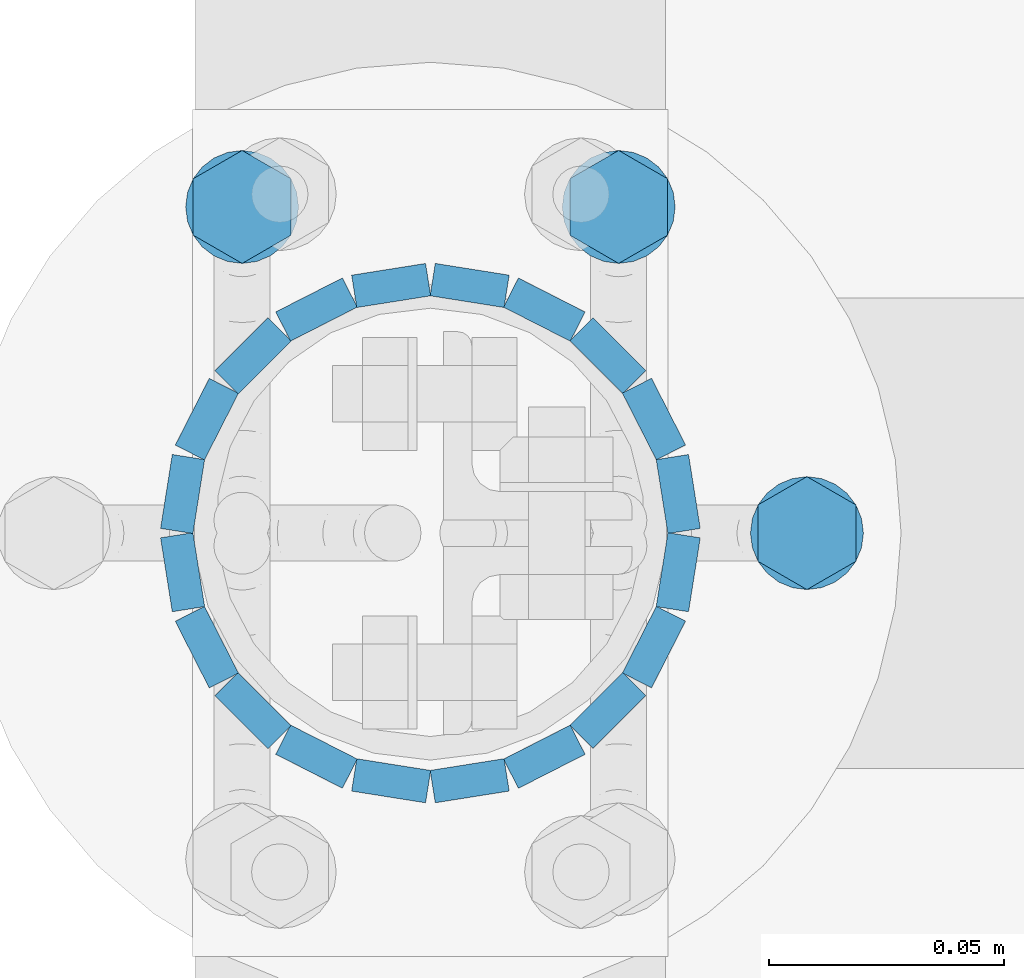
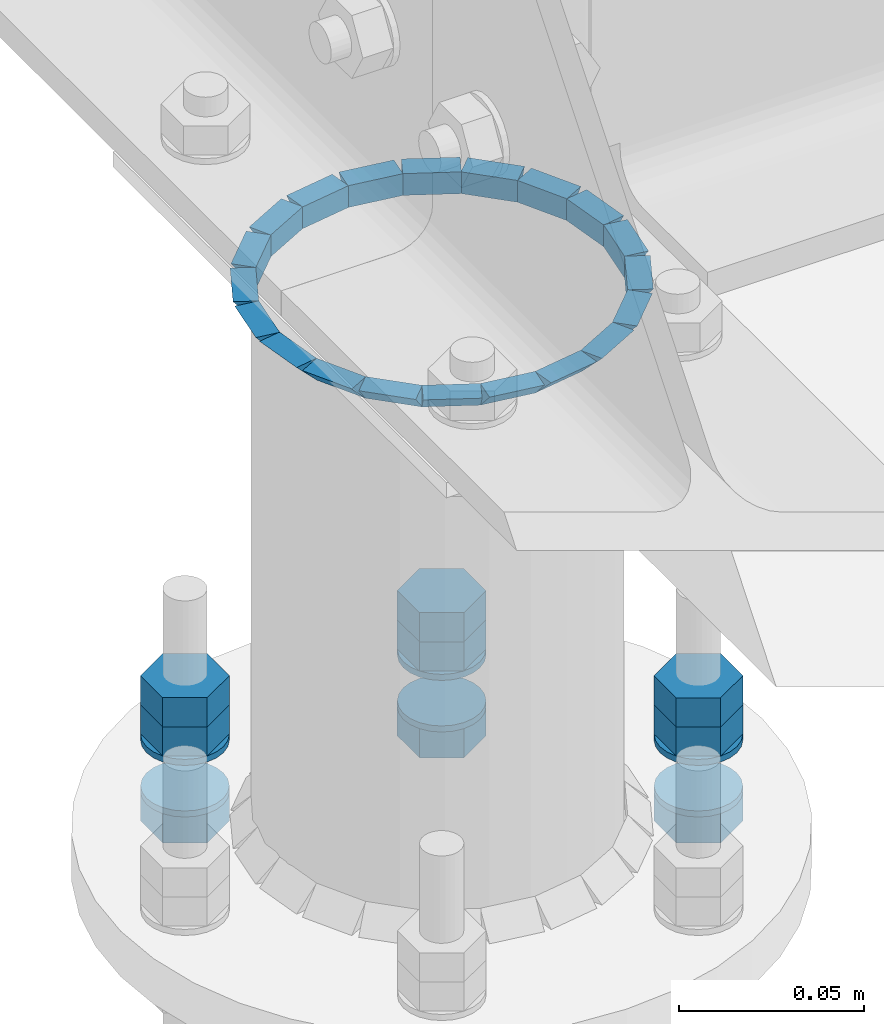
# One storey, part 49 of 84: 40 fasteners, 15 mechanical fasteners.
"""IFC4 building model written with IfcOpenShell, lengths in metres."""

from ifc_helpers import new_model, si_unit, frame, origin_with_axes, place, context, project, spatial, polyline, outline, extrude, type_object, element, save


model = new_model("IFC4")

# Units and contexts
model_context = context("Model", 3, precision=1e-05, world=origin_with_axes())
ifc_project = project(units=[si_unit("LENGTHUNIT", "METRE"), si_unit("AREAUNIT", "SQUARE_METRE"), si_unit("VOLUMEUNIT", "CUBIC_METRE"), si_unit("MASSUNIT", "GRAM", prefix="KILO"), si_unit("TIMEUNIT", "SECOND"), si_unit("PLANEANGLEUNIT", "RADIAN"), si_unit("SOLIDANGLEUNIT", "STERADIAN"), si_unit("THERMODYNAMICTEMPERATUREUNIT", "DEGREE_CELSIUS")], contexts=[model_context])

# Site, building, storey
placement_1 = place(None, origin_with_axes())
site = spatial("IfcSite", under=ifc_project, at=placement_1, Name="Italia", CompositionType="ELEMENT")
building = spatial("IfcBuilding", under=site, at=placement_1, Name="Tettoia", CompositionType="ELEMENT")
storey_placement = place(None, frame((0.0, 0.0, 4.199999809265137), z_axis=(0.0, 0.0, 1.0), x_axis=(1.0, 0.0, 0.0)))
storey = spatial("IfcBuildingStorey", under=building, at=storey_placement, Name="Storey 1", CompositionType="ELEMENT", Elevation=4.199999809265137)

# Mechanical fasteners
mechanical_fastener_type_1 = type_object("IfcMechanicalFastenerType", Name="Collegamento -011_0111", PredefinedType="BOLT")
placement_2 = place(placement_1, origin_with_axes())
mechanical_fastener_1_placement = place(placement_2, origin_with_axes())
element("IfcMechanicalFastener", 1, at=mechanical_fastener_1_placement, inside=storey, type_object=mechanical_fastener_type_1, Name="Collegamento -011_0111", NominalDiameter=0.0119991, context=model_context, shape_type="SweptSolid", body=[
    extrude(outline(polyline([(0.0, 0.0), (-0.0119991, 0.0), (-0.0179996, 0.0103923), (-0.0119991, 0.0207846), (0.0, 0.0207846), (0.00600052, 0.0103923), (0.0, 0.0)])), frame((0.190392, 13.956, 4.017), z_axis=(0.0, 0.0, 1.0), x_axis=(0.0, 1.0, 0.0)), (0.0, 0.0, 1.0), 0.00959969),
])
mechanical_fastener_type_2 = type_object("IfcMechanicalFastenerType", Name="Collegamento -011_0111", PredefinedType="BOLT")
mechanical_fastener_2_placement = place(placement_2, origin_with_axes())
element("IfcMechanicalFastener", 2, at=mechanical_fastener_2_placement, inside=storey, type_object=mechanical_fastener_type_2, Name="Collegamento -011_0111", NominalDiameter=0.0119991, context=model_context, shape_type="SweptSolid", body=[
    extrude(outline(polyline([(0.0, 0.0), (-0.0119991, 0.0), (-0.0179996, 0.0103923), (-0.0119991, 0.0207846), (0.0, 0.0207846), (0.00600052, 0.0103923), (0.0, 0.0)])), frame((0.190392, 13.956, 4.0266), z_axis=(0.0, 0.0, 1.0), x_axis=(0.0, 1.0, 0.0)), (0.0, 0.0, 1.0), 0.00960016),
])
mechanical_fastener_type_3 = type_object("IfcMechanicalFastenerType", Name="Collegamento -011_0111", PredefinedType="BOLT")
mechanical_fastener_3_placement = place(placement_2, origin_with_axes())
element("IfcMechanicalFastener", 3, at=mechanical_fastener_3_placement, inside=storey, type_object=mechanical_fastener_type_3, Name="Collegamento -011_0111", NominalDiameter=0.0119991, context=model_context, shape_type="SweptSolid", body=[
    extrude(outline(polyline([(0.0, 0.0), (-0.0119991, 0.0), (-0.0179996, 0.0103923), (-0.0119991, 0.0207846), (0.0, 0.0207846), (0.00600052, 0.0103923), (0.0, 0.0)])), frame((0.190392, 13.956, 3.9884), z_axis=(0.0, 0.0, 1.0), x_axis=(0.0, 1.0, 0.0)), (0.0, 0.0, 1.0), 0.00959992),
])
mechanical_fastener_type_4 = type_object("IfcMechanicalFastenerType", Name="Collegamento -011_0111", PredefinedType="BOLT")
mechanical_fastener_4_placement = place(placement_2, origin_with_axes())
element("IfcMechanicalFastener", 4, at=mechanical_fastener_4_placement, inside=storey, type_object=mechanical_fastener_type_4, Name="Collegamento -011_0111", NominalDiameter=0.024, context=model_context, shape_type="SweptSolid", body=[
    extrude(outline(polyline([(0.0, 0.0), (-0.000409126, -0.00310583), (-0.00160789, -0.006), (-0.00351524, -0.00848529), (-0.00600052, -0.0103923), (-0.00889397, -0.0115911), (-0.0120001, -0.012), (-0.0151062, -0.0115911), (-0.0179996, -0.0103923), (-0.0204849, -0.00848529), (-0.0223923, -0.006), (-0.023591, -0.00310583), (-0.0240002, 0.0), (-0.023591, 0.00310583), (-0.0223923, 0.006), (-0.0204849, 0.00848529), (-0.0179996, 0.0103923), (-0.0151062, 0.0115911), (-0.0120001, 0.012), (-0.00889397, 0.0115911), (-0.00600052, 0.0103923), (-0.00351524, 0.00848527), (-0.00160789, 0.006), (-0.000409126, 0.00310582), (0.0, 0.0)])), frame((0.18, 13.962, 4.015), z_axis=(0.0, 0.0, 1.0), x_axis=(0.0, 1.0, 0.0)), (0.0, 0.0, 1.0), 0.00200033),
])
mechanical_fastener_type_5 = type_object("IfcMechanicalFastenerType", Name="Collegamento -011_0111", PredefinedType="BOLT")
mechanical_fastener_5_placement = place(placement_2, origin_with_axes())
element("IfcMechanicalFastener", 5, at=mechanical_fastener_5_placement, inside=storey, type_object=mechanical_fastener_type_5, Name="Collegamento -011_0111", NominalDiameter=0.024, context=model_context, shape_type="SweptSolid", body=[
    extrude(outline(polyline([(0.0, 0.0), (-0.000409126, -0.00310583), (-0.00160789, -0.006), (-0.00351524, -0.00848529), (-0.00600052, -0.0103923), (-0.00889397, -0.0115911), (-0.0120001, -0.012), (-0.0151062, -0.0115911), (-0.0179996, -0.0103923), (-0.0204849, -0.00848529), (-0.0223923, -0.006), (-0.023591, -0.00310583), (-0.0240002, 0.0), (-0.023591, 0.00310583), (-0.0223923, 0.006), (-0.0204849, 0.00848529), (-0.0179996, 0.0103923), (-0.0151062, 0.0115911), (-0.0120001, 0.012), (-0.00889397, 0.0115911), (-0.00600052, 0.0103923), (-0.00351524, 0.00848527), (-0.00160789, 0.006), (-0.000409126, 0.00310582), (0.0, 0.0)])), frame((0.18, 13.962, 3.998), z_axis=(0.0, 0.0, 1.0), x_axis=(0.0, 1.0, 0.0)), (0.0, 0.0, 1.0), 0.00200009),
])
mechanical_fastener_type_6 = type_object("IfcMechanicalFastenerType", Name="Collegamento -011_0111", PredefinedType="BOLT")
mechanical_fastener_6_placement = place(placement_2, origin_with_axes())
element("IfcMechanicalFastener", 6, at=mechanical_fastener_6_placement, inside=storey, type_object=mechanical_fastener_type_6, Name="Collegamento -011_0111", NominalDiameter=0.0119998, context=model_context, shape_type="SweptSolid", body=[
    extrude(outline(polyline([(0.0, 0.0), (-0.0120001, 0.0), (-0.0179996, 0.0103923), (-0.0120001, 0.0207846), (0.0, 0.0207846), (0.00599957, 0.0103923), (0.0, 0.0)])), frame((0.150392, 14.0253, 4.017), z_axis=(0.0, 0.0, 1.0), x_axis=(0.0, 1.0, 0.0)), (0.0, 0.0, 1.0), 0.00959969),
])
mechanical_fastener_type_7 = type_object("IfcMechanicalFastenerType", Name="Collegamento -011_0111", PredefinedType="BOLT")
mechanical_fastener_7_placement = place(placement_2, origin_with_axes())
element("IfcMechanicalFastener", 7, at=mechanical_fastener_7_placement, inside=storey, type_object=mechanical_fastener_type_7, Name="Collegamento -011_0111", NominalDiameter=0.0119998, context=model_context, shape_type="SweptSolid", body=[
    extrude(outline(polyline([(0.0, 0.0), (-0.0120001, 0.0), (-0.0179996, 0.0103923), (-0.0120001, 0.0207846), (0.0, 0.0207846), (0.00599957, 0.0103923), (0.0, 0.0)])), frame((0.150392, 14.0253, 4.0266), z_axis=(0.0, 0.0, 1.0), x_axis=(0.0, 1.0, 0.0)), (0.0, 0.0, 1.0), 0.00960016),
])
mechanical_fastener_type_8 = type_object("IfcMechanicalFastenerType", Name="Collegamento -011_0111", PredefinedType="BOLT")
mechanical_fastener_8_placement = place(placement_2, origin_with_axes())
element("IfcMechanicalFastener", 8, at=mechanical_fastener_8_placement, inside=storey, type_object=mechanical_fastener_type_8, Name="Collegamento -011_0111", NominalDiameter=0.0119998, context=model_context, shape_type="SweptSolid", body=[
    extrude(outline(polyline([(0.0, 0.0), (-0.0120001, 0.0), (-0.0179996, 0.0103923), (-0.0120001, 0.0207846), (0.0, 0.0207846), (0.00599957, 0.0103923), (0.0, 0.0)])), frame((0.150392, 14.0253, 3.9884), z_axis=(0.0, 0.0, 1.0), x_axis=(0.0, 1.0, 0.0)), (0.0, 0.0, 1.0), 0.00959992),
])
mechanical_fastener_type_9 = type_object("IfcMechanicalFastenerType", Name="Collegamento -011_0111", PredefinedType="BOLT")
mechanical_fastener_9_placement = place(placement_2, origin_with_axes())
element("IfcMechanicalFastener", 9, at=mechanical_fastener_9_placement, inside=storey, type_object=mechanical_fastener_type_9, Name="Collegamento -011_0111", NominalDiameter=0.024, context=model_context, shape_type="SweptSolid", body=[
    extrude(outline(polyline([(0.0, 0.0), (-0.000409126, -0.00310583), (-0.00160789, -0.006), (-0.00351524, -0.00848529), (-0.00600052, -0.0103923), (-0.00889397, -0.0115911), (-0.0120001, -0.012), (-0.0151062, -0.0115911), (-0.0179996, -0.0103923), (-0.0204849, -0.00848529), (-0.0223923, -0.006), (-0.023591, -0.00310583), (-0.0240002, 0.0), (-0.023591, 0.00310583), (-0.0223923, 0.006), (-0.0204849, 0.00848529), (-0.0179996, 0.0103923), (-0.0151062, 0.0115911), (-0.0120001, 0.012), (-0.00889397, 0.0115911), (-0.00600052, 0.0103923), (-0.00351524, 0.00848527), (-0.00160789, 0.006), (-0.000409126, 0.00310582), (0.0, 0.0)])), frame((0.14, 14.0313, 4.015), z_axis=(0.0, 0.0, 1.0), x_axis=(0.0, 1.0, 0.0)), (0.0, 0.0, 1.0), 0.00200033),
])
mechanical_fastener_type_10 = type_object("IfcMechanicalFastenerType", Name="Collegamento -011_0111", PredefinedType="BOLT")
mechanical_fastener_10_placement = place(placement_2, origin_with_axes())
element("IfcMechanicalFastener", 10, at=mechanical_fastener_10_placement, inside=storey, type_object=mechanical_fastener_type_10, Name="Collegamento -011_0111", NominalDiameter=0.024, context=model_context, shape_type="SweptSolid", body=[
    extrude(outline(polyline([(0.0, 0.0), (-0.000409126, -0.00310583), (-0.00160789, -0.006), (-0.00351524, -0.00848529), (-0.00600052, -0.0103923), (-0.00889397, -0.0115911), (-0.0120001, -0.012), (-0.0151062, -0.0115911), (-0.0179996, -0.0103923), (-0.0204849, -0.00848529), (-0.0223923, -0.006), (-0.023591, -0.00310583), (-0.0240002, 0.0), (-0.023591, 0.00310583), (-0.0223923, 0.006), (-0.0204849, 0.00848529), (-0.0179996, 0.0103923), (-0.0151062, 0.0115911), (-0.0120001, 0.012), (-0.00889397, 0.0115911), (-0.00600052, 0.0103923), (-0.00351524, 0.00848527), (-0.00160789, 0.006), (-0.000409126, 0.00310582), (0.0, 0.0)])), frame((0.14, 14.0313, 3.998), z_axis=(0.0, 0.0, 1.0), x_axis=(0.0, 1.0, 0.0)), (0.0, 0.0, 1.0), 0.00200009),
])
mechanical_fastener_type_11 = type_object("IfcMechanicalFastenerType", Name="Collegamento -011_0111", PredefinedType="BOLT")
mechanical_fastener_11_placement = place(placement_2, origin_with_axes())
element("IfcMechanicalFastener", 11, at=mechanical_fastener_11_placement, inside=storey, type_object=mechanical_fastener_type_11, Name="Collegamento -011_0111", NominalDiameter=0.0119998, context=model_context, shape_type="SweptSolid", body=[
    extrude(outline(polyline([(0.0, 0.0), (-0.0120001, 0.0), (-0.0179996, 0.0103923), (-0.0120001, 0.0207846), (0.0, 0.0207846), (0.00599957, 0.0103923), (0.0, 0.0)])), frame((0.0703923, 14.0253, 4.017), z_axis=(0.0, 0.0, 1.0), x_axis=(0.0, 1.0, 0.0)), (0.0, 0.0, 1.0), 0.00959969),
])
mechanical_fastener_type_12 = type_object("IfcMechanicalFastenerType", Name="Collegamento -011_0111", PredefinedType="BOLT")
mechanical_fastener_12_placement = place(placement_2, origin_with_axes())
element("IfcMechanicalFastener", 12, at=mechanical_fastener_12_placement, inside=storey, type_object=mechanical_fastener_type_12, Name="Collegamento -011_0111", NominalDiameter=0.0119998, context=model_context, shape_type="SweptSolid", body=[
    extrude(outline(polyline([(0.0, 0.0), (-0.0120001, 0.0), (-0.0179996, 0.0103923), (-0.0120001, 0.0207846), (0.0, 0.0207846), (0.00599957, 0.0103923), (0.0, 0.0)])), frame((0.0703923, 14.0253, 4.0266), z_axis=(0.0, 0.0, 1.0), x_axis=(0.0, 1.0, 0.0)), (0.0, 0.0, 1.0), 0.00960016),
])
mechanical_fastener_type_13 = type_object("IfcMechanicalFastenerType", Name="Collegamento -011_0111", PredefinedType="BOLT")
mechanical_fastener_13_placement = place(placement_2, origin_with_axes())
element("IfcMechanicalFastener", 13, at=mechanical_fastener_13_placement, inside=storey, type_object=mechanical_fastener_type_13, Name="Collegamento -011_0111", NominalDiameter=0.0119998, context=model_context, shape_type="SweptSolid", body=[
    extrude(outline(polyline([(0.0, 0.0), (-0.0120001, 0.0), (-0.0179996, 0.0103923), (-0.0120001, 0.0207846), (0.0, 0.0207846), (0.00599957, 0.0103923), (0.0, 0.0)])), frame((0.0703923, 14.0253, 3.9884), z_axis=(0.0, 0.0, 1.0), x_axis=(0.0, 1.0, 0.0)), (0.0, 0.0, 1.0), 0.00959992),
])
mechanical_fastener_type_14 = type_object("IfcMechanicalFastenerType", Name="Collegamento -011_0111", PredefinedType="BOLT")
mechanical_fastener_14_placement = place(placement_2, origin_with_axes())
element("IfcMechanicalFastener", 14, at=mechanical_fastener_14_placement, inside=storey, type_object=mechanical_fastener_type_14, Name="Collegamento -011_0111", NominalDiameter=0.024, context=model_context, shape_type="SweptSolid", body=[
    extrude(outline(polyline([(0.0, 0.0), (-0.000409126, -0.00310583), (-0.00160789, -0.006), (-0.00351524, -0.00848528), (-0.00600052, -0.0103923), (-0.00889397, -0.0115911), (-0.0120001, -0.012), (-0.0151062, -0.0115911), (-0.0179996, -0.0103923), (-0.0204849, -0.00848528), (-0.0223923, -0.006), (-0.023591, -0.00310583), (-0.0240002, 0.0), (-0.023591, 0.00310583), (-0.0223923, 0.006), (-0.0204849, 0.00848528), (-0.0179996, 0.0103923), (-0.0151062, 0.0115911), (-0.0120001, 0.012), (-0.00889397, 0.0115911), (-0.00600052, 0.0103923), (-0.00351524, 0.00848528), (-0.00160789, 0.006), (-0.000409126, 0.00310583), (0.0, 0.0)])), frame((0.06, 14.0313, 4.015), z_axis=(0.0, 0.0, 1.0), x_axis=(0.0, 1.0, 0.0)), (0.0, 0.0, 1.0), 0.00200033),
])
mechanical_fastener_type_15 = type_object("IfcMechanicalFastenerType", Name="Collegamento -011_0111", PredefinedType="BOLT")
mechanical_fastener_15_placement = place(placement_2, origin_with_axes())
element("IfcMechanicalFastener", 15, at=mechanical_fastener_15_placement, inside=storey, type_object=mechanical_fastener_type_15, Name="Collegamento -011_0111", NominalDiameter=0.024, context=model_context, shape_type="SweptSolid", body=[
    extrude(outline(polyline([(0.0, 0.0), (-0.000409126, -0.00310583), (-0.00160789, -0.006), (-0.00351524, -0.00848528), (-0.00600052, -0.0103923), (-0.00889397, -0.0115911), (-0.0120001, -0.012), (-0.0151062, -0.0115911), (-0.0179996, -0.0103923), (-0.0204849, -0.00848528), (-0.0223923, -0.006), (-0.023591, -0.00310583), (-0.0240002, 0.0), (-0.023591, 0.00310583), (-0.0223923, 0.006), (-0.0204849, 0.00848528), (-0.0179996, 0.0103923), (-0.0151062, 0.0115911), (-0.0120001, 0.012), (-0.00889397, 0.0115911), (-0.00600052, 0.0103923), (-0.00351524, 0.00848528), (-0.00160789, 0.006), (-0.000409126, 0.00310583), (0.0, 0.0)])), frame((0.06, 14.0313, 3.998), z_axis=(0.0, 0.0, 1.0), x_axis=(0.0, 1.0, 0.0)), (0.0, 0.0, 1.0), 0.00200009),
])

# Fasteners
fastener_type_1 = type_object("IfcFastenerType", Name="Collegamento 0111_-011", PredefinedType="WELD")
fastener_1_placement = place(placement_2, origin_with_axes())
element("IfcFastener", 16, at=fastener_1_placement, inside=storey, type_object=fastener_type_1, Name="Collegamento 0111_-011", context=model_context, shape_type="SweptSolid", body=[
    extrude(outline(polyline([(0.0, 0.0), (-0.00695896, -0.00717354), (-0.00695896, 0.0), (0.0, 0.0)])), frame((0.101031, 14.0073, 4.19505), z_axis=(0.98768013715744, -0.156486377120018, 0.0), x_axis=(0.156486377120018, 0.98768013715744, 0.0)), (0.0, 0.0, 1.0), 0.0159),
])
fastener_type_2 = type_object("IfcFastenerType", Name="Collegamento 0111_-011", PredefinedType="WELD")
fastener_2_placement = place(placement_2, origin_with_axes())
element("IfcFastener", 17, at=fastener_2_placement, inside=storey, type_object=fastener_type_2, Name="Collegamento 0111_-011", context=model_context, shape_type="SweptSolid", body=[
    extrude(outline(polyline([(0.0, 0.0), (-0.00695801, -0.00717354), (-0.00695801, 0.0), (0.0, 0.0)])), frame((0.118697, 14.0042, 4.19505), z_axis=(0.891007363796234, -0.453988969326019, 0.0), x_axis=(0.453988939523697, 0.891007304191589, 0.0)), (0.0, 0.0, 1.0), 0.0158999),
])
fastener_type_3 = type_object("IfcFastenerType", Name="Collegamento 0111_-011", PredefinedType="WELD")
fastener_3_placement = place(placement_2, origin_with_axes())
element("IfcFastener", 18, at=fastener_3_placement, inside=storey, type_object=fastener_type_3, Name="Collegamento 0111_-011", context=model_context, shape_type="SweptSolid", body=[
    extrude(outline(polyline([(0.0, 0.0), (-0.00695801, -0.00717354), (-0.00695801, 0.0), (0.0, 0.0)])), frame((0.134533, 13.9958, 4.19505), z_axis=(0.70710813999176, -0.707105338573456, 0.0), x_axis=(0.707105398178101, 0.707108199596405, 0.0)), (0.0, 0.0, 1.0), 0.0158998),
])
fastener_type_4 = type_object("IfcFastenerType", Name="Collegamento 0111_-011", PredefinedType="WELD")
fastener_4_placement = place(placement_2, origin_with_axes())
element("IfcFastener", 19, at=fastener_4_placement, inside=storey, type_object=fastener_type_4, Name="Collegamento 0111_-011", context=model_context, shape_type="SweptSolid", body=[
    extrude(outline(polyline([(0.0, 0.0), (-0.00695801, -0.00717354), (-0.00695801, 0.0), (0.0, 0.0)])), frame((0.146988, 13.9829, 4.19505), z_axis=(0.453992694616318, -0.891005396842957, 0.0), x_axis=(0.891005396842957, 0.453992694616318, 0.0)), (0.0, 0.0, 1.0), 0.0158998),
])
fastener_type_5 = type_object("IfcFastenerType", Name="Collegamento 0111_-011", PredefinedType="WELD")
fastener_5_placement = place(placement_2, origin_with_axes())
element("IfcFastener", 20, at=fastener_5_placement, inside=storey, type_object=fastener_type_5, Name="Collegamento 0111_-011", context=model_context, shape_type="SweptSolid", body=[
    extrude(outline(polyline([(0.0, 0.0), (-0.00695801, -0.00717354), (-0.00695801, 0.0), (0.0, 0.0)])), frame((0.154844, 13.9667, 4.19505), z_axis=(0.156434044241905, -0.987688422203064, 0.0), x_axis=(0.987688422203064, 0.156434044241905, 0.0)), (0.0, 0.0, 1.0), 0.0158999),
])
fastener_type_6 = type_object("IfcFastenerType", Name="Collegamento 0111_-011", PredefinedType="WELD")
fastener_6_placement = place(placement_2, origin_with_axes())
element("IfcFastener", 21, at=fastener_6_placement, inside=storey, type_object=fastener_type_6, Name="Collegamento 0111_-011", context=model_context, shape_type="SweptSolid", body=[
    extrude(outline(polyline([(0.0, 0.0), (-0.00695801, -0.00717354), (-0.00695801, 0.0), (0.0, 0.0)])), frame((0.157331, 13.949, 4.19505), z_axis=(-0.156434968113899, -0.987688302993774, 0.0), x_axis=(0.98768824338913, -0.156434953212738, 0.0)), (0.0, 0.0, 1.0), 0.0158999),
])
fastener_type_7 = type_object("IfcFastenerType", Name="Collegamento 0111_-011", PredefinedType="WELD")
fastener_7_placement = place(placement_2, origin_with_axes())
element("IfcFastener", 22, at=fastener_7_placement, inside=storey, type_object=fastener_type_7, Name="Collegamento 0111_-011", context=model_context, shape_type="SweptSolid", body=[
    extrude(outline(polyline([(0.0, 0.0), (-0.00695848, -0.00717354), (-0.00695848, 0.0), (0.0, 0.0)])), frame((0.154206, 13.9313, 4.19505), z_axis=(-0.45399197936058, -0.89100581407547, 0.0), x_axis=(0.891005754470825, -0.453991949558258, 0.0)), (0.0, 0.0, 1.0), 0.0158998),
])
fastener_type_8 = type_object("IfcFastenerType", Name="Collegamento 0111_-011", PredefinedType="WELD")
fastener_8_placement = place(placement_2, origin_with_axes())
element("IfcFastener", 23, at=fastener_8_placement, inside=storey, type_object=fastener_type_8, Name="Collegamento 0111_-011", context=model_context, shape_type="SweptSolid", body=[
    extrude(outline(polyline([(0.0, 0.0), (-0.00695801, -0.00717354), (-0.00695801, 0.0), (0.0, 0.0)])), frame((0.145776, 13.9155, 4.19505), z_axis=(-0.707108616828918, -0.707104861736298, 0.0), x_axis=(0.707104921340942, -0.707108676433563, 0.0)), (0.0, 0.0, 1.0), 0.0158999),
])
fastener_type_9 = type_object("IfcFastenerType", Name="Collegamento 0111_-011", PredefinedType="WELD")
fastener_9_placement = place(placement_2, origin_with_axes())
element("IfcFastener", 24, at=fastener_9_placement, inside=storey, type_object=fastener_type_9, Name="Collegamento 0111_-011", context=model_context, shape_type="SweptSolid", body=[
    extrude(outline(polyline([(0.0, 0.0), (-0.00695896, -0.00717354), (-0.00695896, 0.0), (0.0, 0.0)])), frame((0.132864, 13.903, 4.19505), z_axis=(-0.891007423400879, -0.453988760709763, 0.0), x_axis=(0.453988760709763, -0.891007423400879, 0.0)), (0.0, 0.0, 1.0), 0.0158999),
])
fastener_type_10 = type_object("IfcFastenerType", Name="Collegamento 0111_-011", PredefinedType="WELD")
fastener_10_placement = place(placement_2, origin_with_axes())
element("IfcFastener", 25, at=fastener_10_placement, inside=storey, type_object=fastener_type_10, Name="Collegamento 0111_-011", context=model_context, shape_type="SweptSolid", body=[
    extrude(outline(polyline([(0.0, 0.0), (-0.00695801, -0.00717354), (-0.00695801, 0.0), (0.0, 0.0)])), frame((0.116736, 13.8952, 4.19505), z_axis=(-0.987680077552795, -0.156486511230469, 0.0), x_axis=(0.156486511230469, -0.987680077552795, 0.0)), (0.0, 0.0, 1.0), 0.0159),
])
fastener_type_11 = type_object("IfcFastenerType", Name="Collegamento 0111_-011", PredefinedType="WELD")
fastener_11_placement = place(placement_2, origin_with_axes())
element("IfcFastener", 26, at=fastener_11_placement, inside=storey, type_object=fastener_type_11, Name="Collegamento 0111_-011", context=model_context, shape_type="SweptSolid", body=[
    extrude(outline(polyline([(0.0, 0.0), (-0.00695801, -0.00717354), (-0.00695801, 0.0), (0.0, 0.0)])), frame((0.0989686, 13.8927, 4.19505), z_axis=(-0.987680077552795, 0.156486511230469, 0.0), x_axis=(-0.156486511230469, -0.987680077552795, 0.0)), (0.0, 0.0, 1.0), 0.0159),
])
fastener_type_12 = type_object("IfcFastenerType", Name="Collegamento 0111_-011", PredefinedType="WELD")
fastener_12_placement = place(placement_2, origin_with_axes())
element("IfcFastener", 27, at=fastener_12_placement, inside=storey, type_object=fastener_type_12, Name="Collegamento 0111_-011", context=model_context, shape_type="SweptSolid", body=[
    extrude(outline(polyline([(0.0, 0.0), (-0.00695801, -0.00717354), (-0.00695801, 0.0), (0.0, 0.0)])), frame((0.0813031, 13.8958, 4.19505), z_axis=(-0.891007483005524, 0.453988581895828, 0.0), x_axis=(-0.453988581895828, -0.891007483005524, 0.0)), (0.0, 0.0, 1.0), 0.0158999),
])
fastener_type_13 = type_object("IfcFastenerType", Name="Collegamento 0111_-011", PredefinedType="WELD")
fastener_13_placement = place(placement_2, origin_with_axes())
element("IfcFastener", 28, at=fastener_13_placement, inside=storey, type_object=fastener_type_13, Name="Collegamento 0111_-011", context=model_context, shape_type="SweptSolid", body=[
    extrude(outline(polyline([(0.0, 0.0), (-0.00695801, -0.00717354), (-0.00695801, 0.0), (0.0, 0.0)])), frame((0.0654674, 13.9042, 4.19505), z_axis=(-0.707108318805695, 0.707105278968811, 0.0), x_axis=(-0.707105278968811, -0.707108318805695, 0.0)), (0.0, 0.0, 1.0), 0.0158998),
])
fastener_type_14 = type_object("IfcFastenerType", Name="Collegamento 0111_-011", PredefinedType="WELD")
fastener_14_placement = place(placement_2, origin_with_axes())
element("IfcFastener", 29, at=fastener_14_placement, inside=storey, type_object=fastener_type_14, Name="Collegamento 0111_-011", context=model_context, shape_type="SweptSolid", body=[
    extrude(outline(polyline([(0.0, 0.0), (-0.00695801, -0.00717354), (-0.00695801, 0.0), (0.0, 0.0)])), frame((0.0530121, 13.9171, 4.19505), z_axis=(-0.453991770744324, 0.891005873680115, 0.0), x_axis=(-0.891005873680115, -0.453991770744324, 0.0)), (0.0, 0.0, 1.0), 0.0158998),
])
fastener_type_15 = type_object("IfcFastenerType", Name="Collegamento 0111_-011", PredefinedType="WELD")
fastener_15_placement = place(placement_2, origin_with_axes())
element("IfcFastener", 30, at=fastener_15_placement, inside=storey, type_object=fastener_type_15, Name="Collegamento 0111_-011", context=model_context, shape_type="SweptSolid", body=[
    extrude(outline(polyline([(0.0, 0.0), (-0.00695801, -0.00717354), (-0.00695801, 0.0), (0.0, 0.0)])), frame((0.0451564, 13.9333, 4.19505), z_axis=(-0.156434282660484, 0.987688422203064, 0.0), x_axis=(-0.987688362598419, -0.156434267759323, 0.0)), (0.0, 0.0, 1.0), 0.0158999),
])
fastener_type_16 = type_object("IfcFastenerType", Name="Collegamento 0111_-011", PredefinedType="WELD")
fastener_16_placement = place(placement_2, origin_with_axes())
element("IfcFastener", 31, at=fastener_16_placement, inside=storey, type_object=fastener_type_16, Name="Collegamento 0111_-011", context=model_context, shape_type="SweptSolid", body=[
    extrude(outline(polyline([(0.0, 0.0), (-0.00695801, -0.00717354), (-0.00695801, 0.0), (0.0, 0.0)])), frame((0.0426691, 13.951, 4.19505), z_axis=(0.156434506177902, 0.987688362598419, 0.0), x_axis=(-0.987688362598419, 0.156434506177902, 0.0)), (0.0, 0.0, 1.0), 0.0158999),
])
fastener_type_17 = type_object("IfcFastenerType", Name="Collegamento 0111_-011", PredefinedType="WELD")
fastener_17_placement = place(placement_2, origin_with_axes())
element("IfcFastener", 32, at=fastener_17_placement, inside=storey, type_object=fastener_type_17, Name="Collegamento 0111_-011", context=model_context, shape_type="SweptSolid", body=[
    extrude(outline(polyline([(0.0, 0.0), (-0.00695848, -0.00717354), (-0.00695848, 0.0), (0.0, 0.0)])), frame((0.0457937, 13.9687, 4.19505), z_axis=(0.453992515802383, 0.891005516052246, 0.0), x_axis=(-0.891005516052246, 0.453992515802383, 0.0)), (0.0, 0.0, 1.0), 0.0158998),
])
fastener_type_18 = type_object("IfcFastenerType", Name="Collegamento 0111_-011", PredefinedType="WELD")
fastener_18_placement = place(placement_2, origin_with_axes())
element("IfcFastener", 33, at=fastener_18_placement, inside=storey, type_object=fastener_type_18, Name="Collegamento 0111_-011", context=model_context, shape_type="SweptSolid", body=[
    extrude(outline(polyline([(0.0, 0.0), (-0.00695801, -0.00717354), (-0.00695801, 0.0), (0.0, 0.0)])), frame((0.0542245, 13.9845, 4.19505), z_axis=(0.707108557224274, 0.707105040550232, 0.0), x_axis=(-0.707105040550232, 0.707108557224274, 0.0)), (0.0, 0.0, 1.0), 0.0158999),
])
fastener_type_19 = type_object("IfcFastenerType", Name="Collegamento 0111_-011", PredefinedType="WELD")
fastener_19_placement = place(placement_2, origin_with_axes())
element("IfcFastener", 34, at=fastener_19_placement, inside=storey, type_object=fastener_type_19, Name="Collegamento 0111_-011", context=model_context, shape_type="SweptSolid", body=[
    extrude(outline(polyline([(0.0, 0.0), (-0.00695801, -0.00717354), (-0.00695801, 0.0), (0.0, 0.0)])), frame((0.0671362, 13.997, 4.19505), z_axis=(0.8910071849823, 0.453989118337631, 0.0), x_axis=(-0.453989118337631, 0.8910071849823, 0.0)), (0.0, 0.0, 1.0), 0.0158999),
])
fastener_type_20 = type_object("IfcFastenerType", Name="Collegamento 0111_-011", PredefinedType="WELD")
fastener_20_placement = place(placement_2, origin_with_axes())
element("IfcFastener", 35, at=fastener_20_placement, inside=storey, type_object=fastener_type_20, Name="Collegamento 0111_-011", context=model_context, shape_type="SweptSolid", body=[
    extrude(outline(polyline([(0.0, 0.0), (-0.00695705, -0.00717354), (-0.00695705, 0.0), (0.0, 0.0)])), frame((0.0832645, 14.0048, 4.19505), z_axis=(0.98768013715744, 0.156486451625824, 0.0), x_axis=(-0.156486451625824, 0.98768013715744, 0.0)), (0.0, 0.0, 1.0), 0.0159),
])
fastener_type_21 = type_object("IfcFastenerType", Name="Collegamento 0111_-011", PredefinedType="WELD")
fastener_21_placement = place(placement_2, origin_with_axes())
element("IfcFastener", 36, at=fastener_21_placement, inside=storey, type_object=fastener_type_21, Name="Collegamento 0111_-011", context=model_context, shape_type="SweptSolid", body=[
    extrude(outline(polyline([(0.0, 0.0), (-0.00695896, -0.00717354), (-0.00695896, 0.0), (0.0, 0.0)])), frame((0.101031, 14.0073, 4.19505), z_axis=(0.98768013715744, -0.156486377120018, 0.0), x_axis=(0.156486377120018, 0.98768013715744, 0.0)), (0.0, 0.0, 1.0), 0.0159),
])
fastener_type_22 = type_object("IfcFastenerType", Name="Collegamento 0111_-011", PredefinedType="WELD")
fastener_22_placement = place(placement_2, origin_with_axes())
element("IfcFastener", 37, at=fastener_22_placement, inside=storey, type_object=fastener_type_22, Name="Collegamento 0111_-011", context=model_context, shape_type="SweptSolid", body=[
    extrude(outline(polyline([(0.0, 0.0), (-0.00695801, -0.00717354), (-0.00695801, 0.0), (0.0, 0.0)])), frame((0.118697, 14.0042, 4.19505), z_axis=(0.891007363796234, -0.453988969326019, 0.0), x_axis=(0.453988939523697, 0.891007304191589, 0.0)), (0.0, 0.0, 1.0), 0.0158999),
])
fastener_type_23 = type_object("IfcFastenerType", Name="Collegamento 0111_-011", PredefinedType="WELD")
fastener_23_placement = place(placement_2, origin_with_axes())
element("IfcFastener", 38, at=fastener_23_placement, inside=storey, type_object=fastener_type_23, Name="Collegamento 0111_-011", context=model_context, shape_type="SweptSolid", body=[
    extrude(outline(polyline([(0.0, 0.0), (-0.00695801, -0.00717354), (-0.00695801, 0.0), (0.0, 0.0)])), frame((0.134533, 13.9958, 4.19505), z_axis=(0.70710813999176, -0.707105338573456, 0.0), x_axis=(0.707105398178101, 0.707108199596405, 0.0)), (0.0, 0.0, 1.0), 0.0158998),
])
fastener_type_24 = type_object("IfcFastenerType", Name="Collegamento 0111_-011", PredefinedType="WELD")
fastener_24_placement = place(placement_2, origin_with_axes())
element("IfcFastener", 39, at=fastener_24_placement, inside=storey, type_object=fastener_type_24, Name="Collegamento 0111_-011", context=model_context, shape_type="SweptSolid", body=[
    extrude(outline(polyline([(0.0, 0.0), (-0.00695801, -0.00717354), (-0.00695801, 0.0), (0.0, 0.0)])), frame((0.146988, 13.9829, 4.19505), z_axis=(0.453992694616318, -0.891005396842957, 0.0), x_axis=(0.891005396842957, 0.453992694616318, 0.0)), (0.0, 0.0, 1.0), 0.0158998),
])
fastener_type_25 = type_object("IfcFastenerType", Name="Collegamento 0111_-011", PredefinedType="WELD")
fastener_25_placement = place(placement_2, origin_with_axes())
element("IfcFastener", 40, at=fastener_25_placement, inside=storey, type_object=fastener_type_25, Name="Collegamento 0111_-011", context=model_context, shape_type="SweptSolid", body=[
    extrude(outline(polyline([(0.0, 0.0), (-0.00695801, -0.00717354), (-0.00695801, 0.0), (0.0, 0.0)])), frame((0.154844, 13.9667, 4.19505), z_axis=(0.156434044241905, -0.987688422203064, 0.0), x_axis=(0.987688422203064, 0.156434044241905, 0.0)), (0.0, 0.0, 1.0), 0.0158999),
])
fastener_type_26 = type_object("IfcFastenerType", Name="Collegamento 0111_-011", PredefinedType="WELD")
fastener_26_placement = place(placement_2, origin_with_axes())
element("IfcFastener", 41, at=fastener_26_placement, inside=storey, type_object=fastener_type_26, Name="Collegamento 0111_-011", context=model_context, shape_type="SweptSolid", body=[
    extrude(outline(polyline([(0.0, 0.0), (-0.00695801, -0.00717354), (-0.00695801, 0.0), (0.0, 0.0)])), frame((0.157331, 13.949, 4.19505), z_axis=(-0.156434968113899, -0.987688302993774, 0.0), x_axis=(0.98768824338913, -0.156434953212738, 0.0)), (0.0, 0.0, 1.0), 0.0158999),
])
fastener_type_27 = type_object("IfcFastenerType", Name="Collegamento 0111_-011", PredefinedType="WELD")
fastener_27_placement = place(placement_2, origin_with_axes())
element("IfcFastener", 42, at=fastener_27_placement, inside=storey, type_object=fastener_type_27, Name="Collegamento 0111_-011", context=model_context, shape_type="SweptSolid", body=[
    extrude(outline(polyline([(0.0, 0.0), (-0.00695848, -0.00717354), (-0.00695848, 0.0), (0.0, 0.0)])), frame((0.154206, 13.9313, 4.19505), z_axis=(-0.45399197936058, -0.89100581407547, 0.0), x_axis=(0.891005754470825, -0.453991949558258, 0.0)), (0.0, 0.0, 1.0), 0.0158998),
])
fastener_type_28 = type_object("IfcFastenerType", Name="Collegamento 0111_-011", PredefinedType="WELD")
fastener_28_placement = place(placement_2, origin_with_axes())
element("IfcFastener", 43, at=fastener_28_placement, inside=storey, type_object=fastener_type_28, Name="Collegamento 0111_-011", context=model_context, shape_type="SweptSolid", body=[
    extrude(outline(polyline([(0.0, 0.0), (-0.00695801, -0.00717354), (-0.00695801, 0.0), (0.0, 0.0)])), frame((0.145776, 13.9155, 4.19505), z_axis=(-0.707108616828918, -0.707104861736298, 0.0), x_axis=(0.707104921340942, -0.707108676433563, 0.0)), (0.0, 0.0, 1.0), 0.0158999),
])
fastener_type_29 = type_object("IfcFastenerType", Name="Collegamento 0111_-011", PredefinedType="WELD")
fastener_29_placement = place(placement_2, origin_with_axes())
element("IfcFastener", 44, at=fastener_29_placement, inside=storey, type_object=fastener_type_29, Name="Collegamento 0111_-011", context=model_context, shape_type="SweptSolid", body=[
    extrude(outline(polyline([(0.0, 0.0), (-0.00695896, -0.00717354), (-0.00695896, 0.0), (0.0, 0.0)])), frame((0.132864, 13.903, 4.19505), z_axis=(-0.891007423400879, -0.453988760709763, 0.0), x_axis=(0.453988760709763, -0.891007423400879, 0.0)), (0.0, 0.0, 1.0), 0.0158999),
])
fastener_type_30 = type_object("IfcFastenerType", Name="Collegamento 0111_-011", PredefinedType="WELD")
fastener_30_placement = place(placement_2, origin_with_axes())
element("IfcFastener", 45, at=fastener_30_placement, inside=storey, type_object=fastener_type_30, Name="Collegamento 0111_-011", context=model_context, shape_type="SweptSolid", body=[
    extrude(outline(polyline([(0.0, 0.0), (-0.00695801, -0.00717354), (-0.00695801, 0.0), (0.0, 0.0)])), frame((0.116736, 13.8952, 4.19505), z_axis=(-0.987680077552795, -0.156486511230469, 0.0), x_axis=(0.156486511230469, -0.987680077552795, 0.0)), (0.0, 0.0, 1.0), 0.0159),
])
fastener_type_31 = type_object("IfcFastenerType", Name="Collegamento 0111_-011", PredefinedType="WELD")
fastener_31_placement = place(placement_2, origin_with_axes())
element("IfcFastener", 46, at=fastener_31_placement, inside=storey, type_object=fastener_type_31, Name="Collegamento 0111_-011", context=model_context, shape_type="SweptSolid", body=[
    extrude(outline(polyline([(0.0, 0.0), (-0.00695801, -0.00717354), (-0.00695801, 0.0), (0.0, 0.0)])), frame((0.0989686, 13.8927, 4.19505), z_axis=(-0.987680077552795, 0.156486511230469, 0.0), x_axis=(-0.156486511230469, -0.987680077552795, 0.0)), (0.0, 0.0, 1.0), 0.0159),
])
fastener_type_32 = type_object("IfcFastenerType", Name="Collegamento 0111_-011", PredefinedType="WELD")
fastener_32_placement = place(placement_2, origin_with_axes())
element("IfcFastener", 47, at=fastener_32_placement, inside=storey, type_object=fastener_type_32, Name="Collegamento 0111_-011", context=model_context, shape_type="SweptSolid", body=[
    extrude(outline(polyline([(0.0, 0.0), (-0.00695801, -0.00717354), (-0.00695801, 0.0), (0.0, 0.0)])), frame((0.0813031, 13.8958, 4.19505), z_axis=(-0.891007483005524, 0.453988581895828, 0.0), x_axis=(-0.453988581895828, -0.891007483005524, 0.0)), (0.0, 0.0, 1.0), 0.0158999),
])
fastener_type_33 = type_object("IfcFastenerType", Name="Collegamento 0111_-011", PredefinedType="WELD")
fastener_33_placement = place(placement_2, origin_with_axes())
element("IfcFastener", 48, at=fastener_33_placement, inside=storey, type_object=fastener_type_33, Name="Collegamento 0111_-011", context=model_context, shape_type="SweptSolid", body=[
    extrude(outline(polyline([(0.0, 0.0), (-0.00695801, -0.00717354), (-0.00695801, 0.0), (0.0, 0.0)])), frame((0.0654674, 13.9042, 4.19505), z_axis=(-0.707108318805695, 0.707105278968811, 0.0), x_axis=(-0.707105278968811, -0.707108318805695, 0.0)), (0.0, 0.0, 1.0), 0.0158998),
])
fastener_type_34 = type_object("IfcFastenerType", Name="Collegamento 0111_-011", PredefinedType="WELD")
fastener_34_placement = place(placement_2, origin_with_axes())
element("IfcFastener", 49, at=fastener_34_placement, inside=storey, type_object=fastener_type_34, Name="Collegamento 0111_-011", context=model_context, shape_type="SweptSolid", body=[
    extrude(outline(polyline([(0.0, 0.0), (-0.00695801, -0.00717354), (-0.00695801, 0.0), (0.0, 0.0)])), frame((0.0530121, 13.9171, 4.19505), z_axis=(-0.453991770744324, 0.891005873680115, 0.0), x_axis=(-0.891005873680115, -0.453991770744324, 0.0)), (0.0, 0.0, 1.0), 0.0158998),
])
fastener_type_35 = type_object("IfcFastenerType", Name="Collegamento 0111_-011", PredefinedType="WELD")
fastener_35_placement = place(placement_2, origin_with_axes())
element("IfcFastener", 50, at=fastener_35_placement, inside=storey, type_object=fastener_type_35, Name="Collegamento 0111_-011", context=model_context, shape_type="SweptSolid", body=[
    extrude(outline(polyline([(0.0, 0.0), (-0.00695801, -0.00717354), (-0.00695801, 0.0), (0.0, 0.0)])), frame((0.0451564, 13.9333, 4.19505), z_axis=(-0.156434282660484, 0.987688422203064, 0.0), x_axis=(-0.987688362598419, -0.156434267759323, 0.0)), (0.0, 0.0, 1.0), 0.0158999),
])
fastener_type_36 = type_object("IfcFastenerType", Name="Collegamento 0111_-011", PredefinedType="WELD")
fastener_36_placement = place(placement_2, origin_with_axes())
element("IfcFastener", 51, at=fastener_36_placement, inside=storey, type_object=fastener_type_36, Name="Collegamento 0111_-011", context=model_context, shape_type="SweptSolid", body=[
    extrude(outline(polyline([(0.0, 0.0), (-0.00695801, -0.00717354), (-0.00695801, 0.0), (0.0, 0.0)])), frame((0.0426691, 13.951, 4.19505), z_axis=(0.156434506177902, 0.987688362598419, 0.0), x_axis=(-0.987688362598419, 0.156434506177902, 0.0)), (0.0, 0.0, 1.0), 0.0158999),
])
fastener_type_37 = type_object("IfcFastenerType", Name="Collegamento 0111_-011", PredefinedType="WELD")
fastener_37_placement = place(placement_2, origin_with_axes())
element("IfcFastener", 52, at=fastener_37_placement, inside=storey, type_object=fastener_type_37, Name="Collegamento 0111_-011", context=model_context, shape_type="SweptSolid", body=[
    extrude(outline(polyline([(0.0, 0.0), (-0.00695848, -0.00717354), (-0.00695848, 0.0), (0.0, 0.0)])), frame((0.0457937, 13.9687, 4.19505), z_axis=(0.453992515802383, 0.891005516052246, 0.0), x_axis=(-0.891005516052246, 0.453992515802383, 0.0)), (0.0, 0.0, 1.0), 0.0158998),
])
fastener_type_38 = type_object("IfcFastenerType", Name="Collegamento 0111_-011", PredefinedType="WELD")
fastener_38_placement = place(placement_2, origin_with_axes())
element("IfcFastener", 53, at=fastener_38_placement, inside=storey, type_object=fastener_type_38, Name="Collegamento 0111_-011", context=model_context, shape_type="SweptSolid", body=[
    extrude(outline(polyline([(0.0, 0.0), (-0.00695801, -0.00717354), (-0.00695801, 0.0), (0.0, 0.0)])), frame((0.0542245, 13.9845, 4.19505), z_axis=(0.707108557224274, 0.707105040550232, 0.0), x_axis=(-0.707105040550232, 0.707108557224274, 0.0)), (0.0, 0.0, 1.0), 0.0158999),
])
fastener_type_39 = type_object("IfcFastenerType", Name="Collegamento 0111_-011", PredefinedType="WELD")
fastener_39_placement = place(placement_2, origin_with_axes())
element("IfcFastener", 54, at=fastener_39_placement, inside=storey, type_object=fastener_type_39, Name="Collegamento 0111_-011", context=model_context, shape_type="SweptSolid", body=[
    extrude(outline(polyline([(0.0, 0.0), (-0.00695801, -0.00717354), (-0.00695801, 0.0), (0.0, 0.0)])), frame((0.0671362, 13.997, 4.19505), z_axis=(0.8910071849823, 0.453989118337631, 0.0), x_axis=(-0.453989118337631, 0.8910071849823, 0.0)), (0.0, 0.0, 1.0), 0.0158999),
])
fastener_type_40 = type_object("IfcFastenerType", Name="Collegamento 0111_-011", PredefinedType="WELD")
fastener_40_placement = place(placement_2, origin_with_axes())
element("IfcFastener", 55, at=fastener_40_placement, inside=storey, type_object=fastener_type_40, Name="Collegamento 0111_-011", context=model_context, shape_type="SweptSolid", body=[
    extrude(outline(polyline([(0.0, 0.0), (-0.00695705, -0.00717354), (-0.00695705, 0.0), (0.0, 0.0)])), frame((0.0832645, 14.0048, 4.19505), z_axis=(0.98768013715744, 0.156486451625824, 0.0), x_axis=(-0.156486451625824, 0.98768013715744, 0.0)), (0.0, 0.0, 1.0), 0.0159),
])

save(model, "model.ifc")
